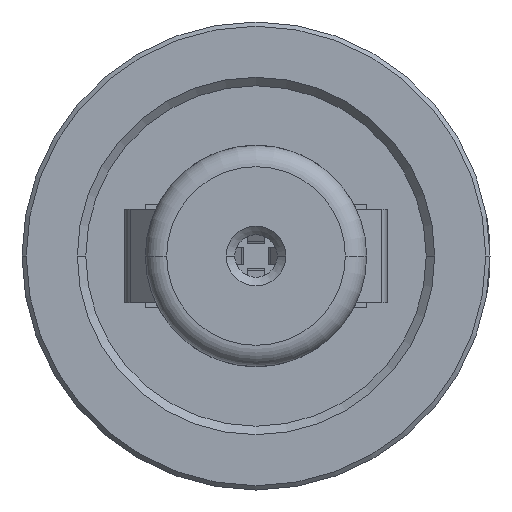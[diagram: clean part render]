
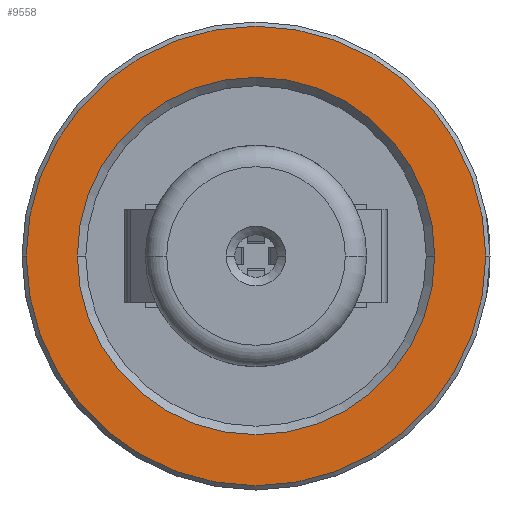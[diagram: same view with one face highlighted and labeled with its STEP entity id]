
A CAD part, front view. The second image highlights one B-rep face of the part: STEP entity #9558.
In plain terms, the highlighted planar face has unit normal (0, -1, 0).
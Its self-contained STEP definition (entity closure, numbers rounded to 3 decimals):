
#1=CARTESIAN_POINT('',(0.,0.,0.));
#2=DIRECTION('',(0.,-1.,0.));
#3=DIRECTION('',(1.,0.,0.));
#4=AXIS2_PLACEMENT_3D('',#1,#2,#3);
#6=CARTESIAN_POINT('',(0.,0.,0.));
#7=DIRECTION('',(0.,-1.,0.));
#8=DIRECTION('',(-1.,0.,0.));
#9=AXIS2_PLACEMENT_3D('',#6,#7,#8);
#11=CARTESIAN_POINT('',(0.,0.,0.));
#12=DIRECTION('',(0.,1.,0.));
#13=DIRECTION('',(1.,0.,0.));
#14=AXIS2_PLACEMENT_3D('',#11,#12,#13);
#16=CARTESIAN_POINT('',(0.,0.,0.));
#17=DIRECTION('',(0.,1.,0.));
#18=DIRECTION('',(-1.,0.,0.));
#19=AXIS2_PLACEMENT_3D('',#16,#17,#18);
#7510=CARTESIAN_POINT('',(5.4,0.,0.));
#7511=CARTESIAN_POINT('',(-5.4,0.,0.));
#7512=VERTEX_POINT('',#7510);
#7513=VERTEX_POINT('',#7511);
#9493=CARTESIAN_POINT('',(4.2,0.,0.));
#9494=CARTESIAN_POINT('',(-4.2,0.,0.));
#9495=VERTEX_POINT('',#9493);
#9496=VERTEX_POINT('',#9494);
#9541=CARTESIAN_POINT('',(0.,0.,0.));
#9542=DIRECTION('',(0.,1.,0.));
#9543=DIRECTION('',(1.,0.,0.));
#9544=AXIS2_PLACEMENT_3D('',#9541,#9542,#9543);
#9545=PLANE('',#9544);
#9547=ORIENTED_EDGE('',*,*,#9546,.F.);
#9549=ORIENTED_EDGE('',*,*,#9548,.F.);
#9550=EDGE_LOOP('',(#9547,#9549));
#9551=FACE_OUTER_BOUND('',#9550,.F.);
#9553=ORIENTED_EDGE('',*,*,#9552,.F.);
#9555=ORIENTED_EDGE('',*,*,#9554,.F.);
#9556=EDGE_LOOP('',(#9553,#9555));
#9557=FACE_BOUND('',#9556,.F.);
#5=CIRCLE('',#4,5.4);
#10=CIRCLE('',#9,5.4);
#15=CIRCLE('',#14,4.2);
#20=CIRCLE('',#19,4.2);
#9546=EDGE_CURVE('',#7512,#7513,#5,.T.);
#9548=EDGE_CURVE('',#7513,#7512,#10,.T.);
#9552=EDGE_CURVE('',#9495,#9496,#15,.T.);
#9554=EDGE_CURVE('',#9496,#9495,#20,.T.);
#9558=ADVANCED_FACE('',(#9551,#9557),#9545,.F.);
